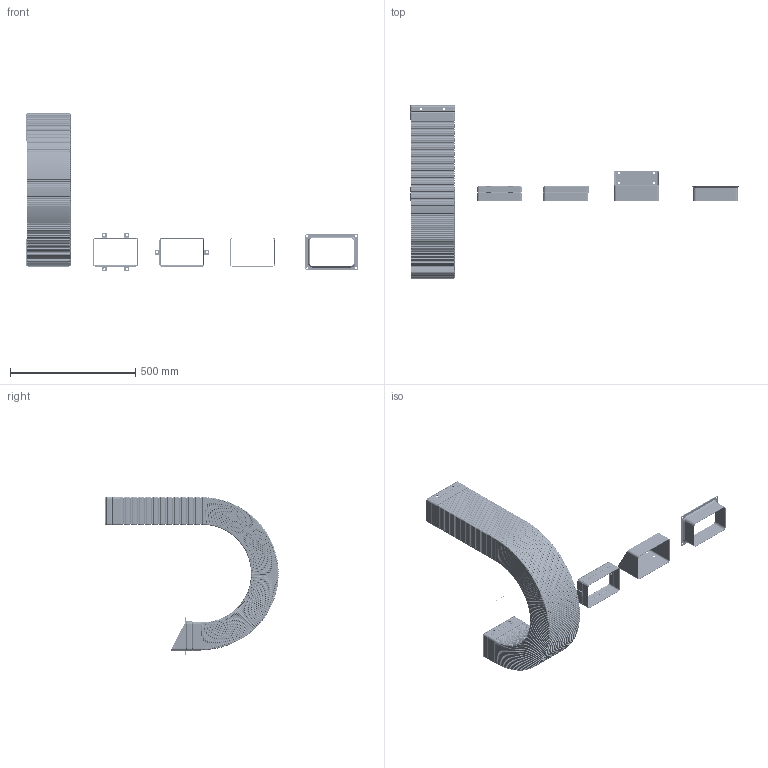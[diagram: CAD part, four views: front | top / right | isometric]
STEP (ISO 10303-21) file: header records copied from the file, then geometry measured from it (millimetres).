
FILE_DESCRIPTION((''),'2;1');
FILE_NAME('C:\Uebbing\PARAMETERKETTEN\SFK\SFK 52 H\SFK 52 H.stp','2012-04-13T09:02:08',('Uebbing'),(''),'Autodesk Inventor 10','Autodesk Inventor 10','');
FILE_SCHEMA(('AUTOMOTIVE_DESIGN { 1 0 10303 214 1 1 1 1 }'));
Length unit declared in the file: millimetre
Products named in the file (12): SFK 52 H STEP; Achse; SFK 52 H Normalanschluss; SFK 52 H Rippe; SFK 52 H Anschluss A; Anschlusswinkel; Rändelmutter M6 flach; Imbusschraube M6x5 Senkkopf; SFK 52 H Anschluss B; SFK 52 H Aanschluss B; SFK 52 H Schrägflanschanschluss; SFK 52 H Stirnflansch
Assembly tree (189 placements, depth 3):
  SFK 52 H STEP
    Achse
    SFK 52 H Normalanschluss  x2
    SFK 52 H Rippe  x162
    SFK 52 H Anschluss A
      SFK 52 H Normalanschluss
      Anschlusswinkel  x4
      Rändelmutter M6 flach  x4
      Imbusschraube M6x5 Senkkopf  x4
    SFK 52 H Anschluss B
      SFK 52 H Aanschluss B
      Anschlusswinkel  x2
      Rändelmutter M6 flach  x2
      Imbusschraube M6x5 Senkkopf  x2
    SFK 52 H Schrägflanschanschluss
    SFK 52 H Stirnflansch
Bounding box: 1327.24 x 693.27 x 634 mm (x, y, z)
Volume: 1367389.9 mm3; surface area: 2876447.9 mm2
Topology: 187 solids, 187 shells, 19760 faces, 43662 edges, 24629 vertices
Faces by surface type: cylinder 9483, plane 4865, bspline 2698, torus 2686, cone 28
Full cylindrical faces by diameter (mm): 1 x1, 6 x12, 6.5 x6, 9 x26, 9.2 x6, 11 x6, 12 x6
Entity records: 20088 total; most frequent: CARTESIAN_POINT 5748, DIRECTION 3294, ORIENTED_EDGE 2500, AXIS2_PLACEMENT_3D 1347, EDGE_CURVE 1250, VERTEX_POINT 742, EDGE_LOOP 650, CIRCLE 642
